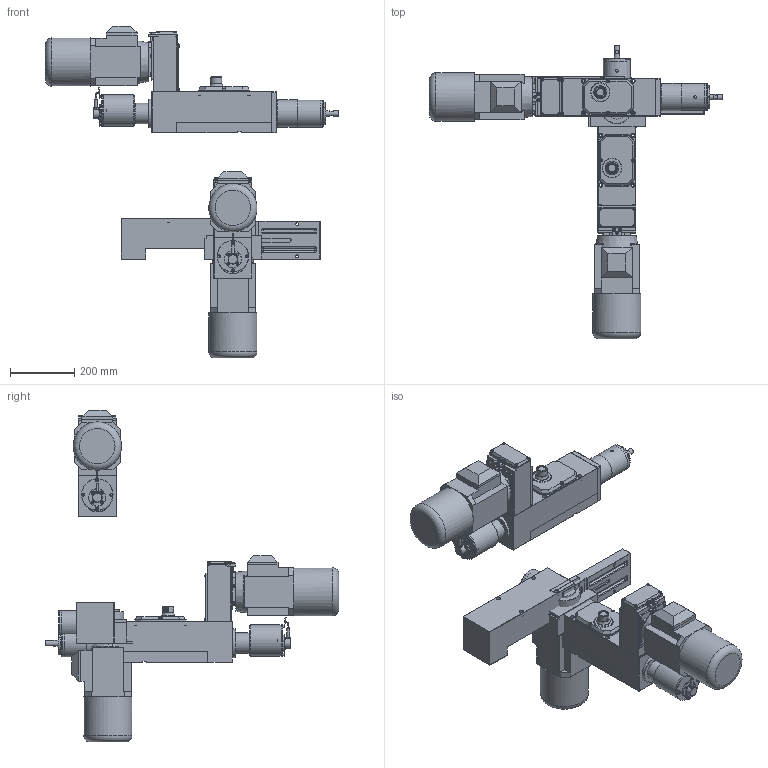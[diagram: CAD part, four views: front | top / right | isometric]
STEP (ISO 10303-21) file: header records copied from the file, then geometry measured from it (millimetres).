
FILE_DESCRIPTION( ( 'STEP AP203' ), '1' );
FILE_NAME( 'C:/Documents and Settings/Saverio/Desktop/disegni ironcad/unità serie 1/MC 112/MC 112_A01_P.stp', '2014-01-13T17:12:57', ( ' ' ), ( ' ' ), 'XStep 1.0', ' ', ' ' );
FILE_SCHEMA( ( 'CONFIG_CONTROL_DESIGN' ) );
Length unit declared in the file: metre
Products named in the file (53): Assem1; Assem2; Assem3; 1; 2; 3; 4; 5; 6; 7; 8; 9; 10; 11; 12; 13; 14; 15; 16; 17; 18; 19; 20; 21; 22; 23; 24; 25; 26; 27; 28; 29; 30; 31; 32; 33; 34; 35; 36; 37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
Bounding box: 911.2 x 913 x 1032.13 mm (x, y, z)
Volume: 40043898.2 mm3; surface area: 3303658.7 mm2
Topology: 150 solids, 150 shells, 3129 faces, 7050 edges, 4386 vertices
Faces by surface type: plane 1911, cylinder 687, cone 420, sphere 60, bspline 30, torus 21
Full cylindrical faces by diameter (mm): 4.134 x3, 4.5 x12, 5 x33, 5.5 x15, 6 x21, 6.5 x18, 6.75 x12, 6.9 x12, 7 x3, 8 x3, 8.385 x15, 8.5 x27, 9.87 x24, 13.5 x12, 18 x9, 20 x3, 23 x3, 30 x9, 32 x6, 41 x3, 52 x3, 52.5 x3, 54 x9, 54.4 x3, 60 x3, 64 x3, 70 x6, 80 x9, 84 x3, 85 x3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
Entity records: 31497 total; most frequent: CARTESIAN_POINT 6852, DIRECTION 4638, ORIENTED_EDGE 4176, EDGE_CURVE 2088, AXIS2_PLACEMENT_3D 1682, VERTEX_POINT 1431, EDGE_LOOP 1405, LINE 1274
